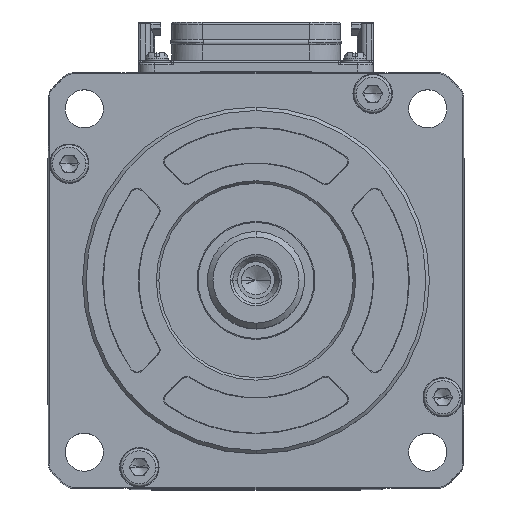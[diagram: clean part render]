
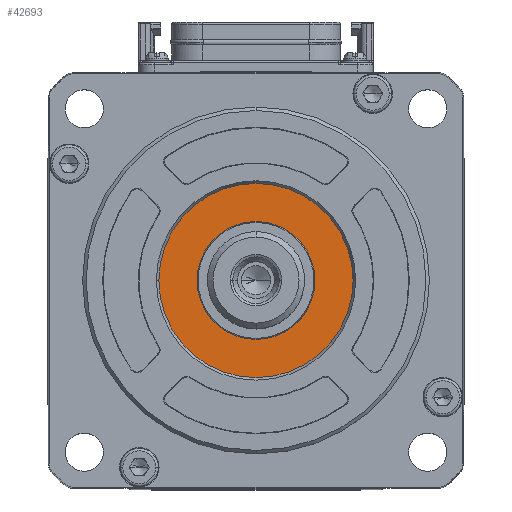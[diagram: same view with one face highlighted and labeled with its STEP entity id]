
A CAD part, top view. The second image highlights one B-rep face of the part: STEP entity #42693.
In plain terms, the highlighted planar face has unit normal (0, 0, 1).
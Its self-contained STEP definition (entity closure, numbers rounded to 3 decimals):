
#44 = EDGE_LOOP ( 'NONE', ( #41836, #55341 ) ) ;
#1479 = CIRCLE ( 'NONE', #63297, 14. ) ;
#3940 = DIRECTION ( 'NONE',  ( 0., 1., 0. ) ) ;
#4243 = CARTESIAN_POINT ( 'NONE',  ( 0., 0., 44.347 ) ) ;
#9467 = EDGE_LOOP ( 'NONE', ( #79309, #57657 ) ) ;
#11734 = DIRECTION ( 'NONE',  ( 0., 0., 1. ) ) ;
#12723 = AXIS2_PLACEMENT_3D ( 'NONE', #25033, #77137, #32529 ) ;
#14196 = CIRCLE ( 'NONE', #44627, 8.5 ) ;
#14366 = VERTEX_POINT ( 'NONE', #81695 ) ;
#16335 = VERTEX_POINT ( 'NONE', #45595 ) ;
#25033 = CARTESIAN_POINT ( 'NONE',  ( 0., 0., 44.347 ) ) ;
#25688 = EDGE_CURVE ( 'NONE', #16335, #14366, #14196, .T. ) ;
#27037 = DIRECTION ( 'NONE',  ( 0., 0., 1. ) ) ;
#27929 = FACE_OUTER_BOUND ( 'NONE', #9467, .T. ) ;
#29687 = CARTESIAN_POINT ( 'NONE',  ( 0., 0., 44.347 ) ) ;
#30018 = CIRCLE ( 'NONE', #12723, 8.5 ) ;
#30187 = DIRECTION ( 'NONE',  ( 0., 0., -1. ) ) ;
#30545 = CARTESIAN_POINT ( 'NONE',  ( 0., -14., 44.347 ) ) ;
#32529 = DIRECTION ( 'NONE',  ( 0., 1., 0. ) ) ;
#34715 = CARTESIAN_POINT ( 'NONE',  ( 0., 14., 44.347 ) ) ;
#35576 = AXIS2_PLACEMENT_3D ( 'NONE', #4243, #11734, #3940 ) ;
#41836 = ORIENTED_EDGE ( 'NONE', *, *, #48634, .F. ) ;
#42693 = ADVANCED_FACE ( 'NONE', ( #47768, #27929 ), #70715, .T. ) ;
#44627 = AXIS2_PLACEMENT_3D ( 'NONE', #71997, #27037, #86021 ) ;
#45595 = CARTESIAN_POINT ( 'NONE',  ( 8.5, 0., 44.347 ) ) ;
#47768 = FACE_BOUND ( 'NONE', #44, .T. ) ;
#48634 = EDGE_CURVE ( 'NONE', #14366, #16335, #30018, .T. ) ;
#52463 = DIRECTION ( 'NONE',  ( 0., 0., -1. ) ) ;
#55341 = ORIENTED_EDGE ( 'NONE', *, *, #25688, .F. ) ;
#57657 = ORIENTED_EDGE ( 'NONE', *, *, #59999, .F. ) ;
#59870 = CARTESIAN_POINT ( 'NONE',  ( 0., 0., 44.347 ) ) ;
#59999 = EDGE_CURVE ( 'NONE', #79534, #89620, #1479, .T. ) ;
#63297 = AXIS2_PLACEMENT_3D ( 'NONE', #29687, #52463, #68116 ) ;
#68116 = DIRECTION ( 'NONE',  ( 0., 1., 0. ) ) ;
#70715 = PLANE ( 'NONE',  #35576 ) ;
#71997 = CARTESIAN_POINT ( 'NONE',  ( 0., 0., 44.347 ) ) ;
#74199 = EDGE_CURVE ( 'NONE', #89620, #79534, #84606, .T. ) ;
#77137 = DIRECTION ( 'NONE',  ( 0., 0., 1. ) ) ;
#79309 = ORIENTED_EDGE ( 'NONE', *, *, #74199, .F. ) ;
#79534 = VERTEX_POINT ( 'NONE', #30545 ) ;
#81695 = CARTESIAN_POINT ( 'NONE',  ( -8.5, 0., 44.347 ) ) ;
#82304 = DIRECTION ( 'NONE',  ( 0., 1., 0. ) ) ;
#84606 = CIRCLE ( 'NONE', #93272, 14. ) ;
#86021 = DIRECTION ( 'NONE',  ( 0., 1., 0. ) ) ;
#89620 = VERTEX_POINT ( 'NONE', #34715 ) ;
#93272 = AXIS2_PLACEMENT_3D ( 'NONE', #59870, #30187, #82304 ) ;
